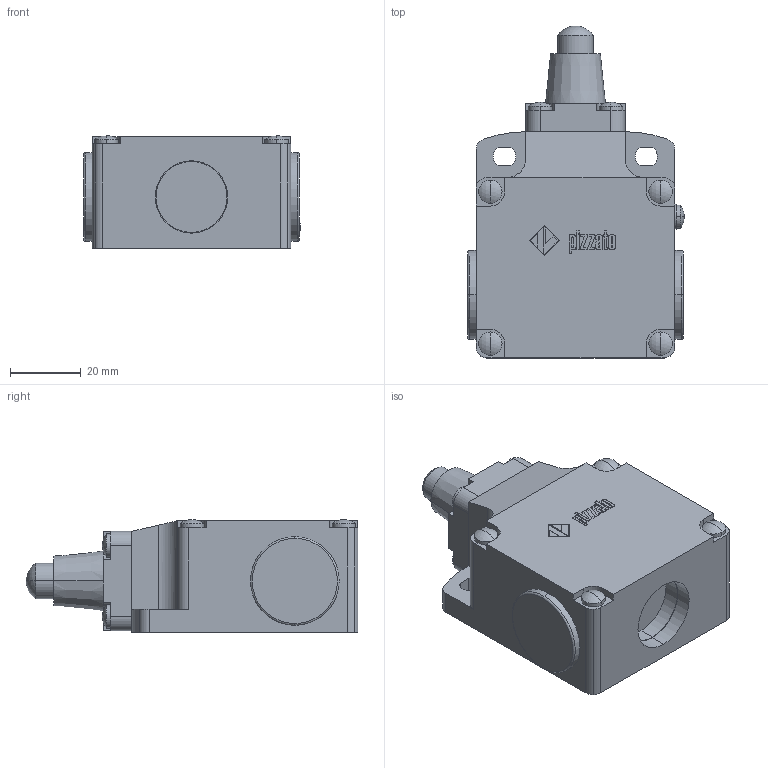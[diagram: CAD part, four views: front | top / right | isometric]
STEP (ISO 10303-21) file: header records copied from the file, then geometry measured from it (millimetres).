
FILE_DESCRIPTION (( 'STEP AP214' ), '1' );
FILE_NAME ('ZF_STEP_FL_x11-M2-EXx.step', '2015-10-01T14:19:37', ( 'utente' ), ( 'Microsoft' ), 'SwSTEP 2.0', 'SolidWorks 2014', '' );
FILE_SCHEMA (( 'AUTOMOTIVE_DESIGN' ));
Length unit declared in the file: millimetre
Products named in the file (6): ZF_STEP_VF_T11; Pizzato_Pistoncino_T11; Pizzato_Supporto_T11; Pizzato_Tappo_Protezione_PG13_M20_PG13; Pizzato_Custodia_FL_ATEX; ZF_STEP_FL_x11-M2-EXx
Assembly tree (6 placements, depth 3):
  ZF_STEP_FL_x11-M2-EXx
    Pizzato_Custodia_FL_ATEX
    Pizzato_Tappo_Protezione_PG13_M20_PG13  x2
    ZF_STEP_VF_T11
      Pizzato_Supporto_T11
      Pizzato_Pistoncino_T11
Bounding box: 61.1 x 93.6 x 31.8 mm (x, y, z)
Volume: 108251.9 mm3; surface area: 24469.9 mm2
Topology: 5 solids, 5 shells, 456 faces, 1163 edges, 769 vertices
Faces by surface type: plane 259, cylinder 98, bspline 73, sphere 20, torus 4, cone 2
Entity records: 17120 total; most frequent: CARTESIAN_POINT 6314, ORIENTED_EDGE 2294, DIRECTION 1980, EDGE_CURVE 1147, LINE 786, VECTOR 786, VERTEX_POINT 759, AXIS2_PLACEMENT_3D 597
